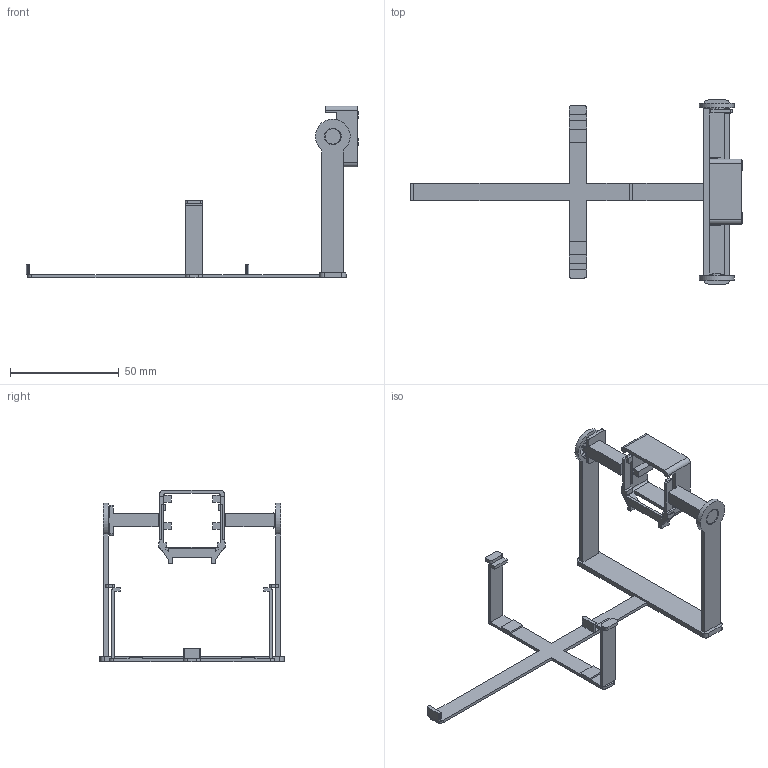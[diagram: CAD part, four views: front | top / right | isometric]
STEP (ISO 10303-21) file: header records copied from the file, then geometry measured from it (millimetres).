
FILE_DESCRIPTION(('Open CASCADE Model'),'2;1');
FILE_NAME('Open CASCADE Shape Model','2026-10-14T00:31:45',('Author'),( 'Open CASCADE'),'Open CASCADE STEP processor 8.0','build123d', 'Unknown');
FILE_SCHEMA(('AUTOMOTIVE_DESIGN { 1 0 10303 214 1 1 1 1 }'));
Length unit declared in the file: millimetre
Products named in the file (3): COMPOUND
Assembly tree (2 placements, depth 2):
  COMPOUND
    COMPOUND
    COMPOUND
Bounding box: 152.97 x 84.8 x 79.2 mm (x, y, z)
Volume: 14216.4 mm3; surface area: 17392.3 mm2
Topology: 2 solids, 2 shells, 297 faces, 857 edges, 565 vertices
Faces by surface type: plane 239, cylinder 58
Full cylindrical faces by diameter (mm): 7 x1, 7.7 x1
Entity records: 20746 total; most frequent: CARTESIAN_POINT 4271, DIRECTION 2877, LINE 1934, VECTOR 1934, ORIENTED_EDGE 1714, PCURVE 1714, DEFINITIONAL_REPRESENTATION 1714, EDGE_CURVE 857
